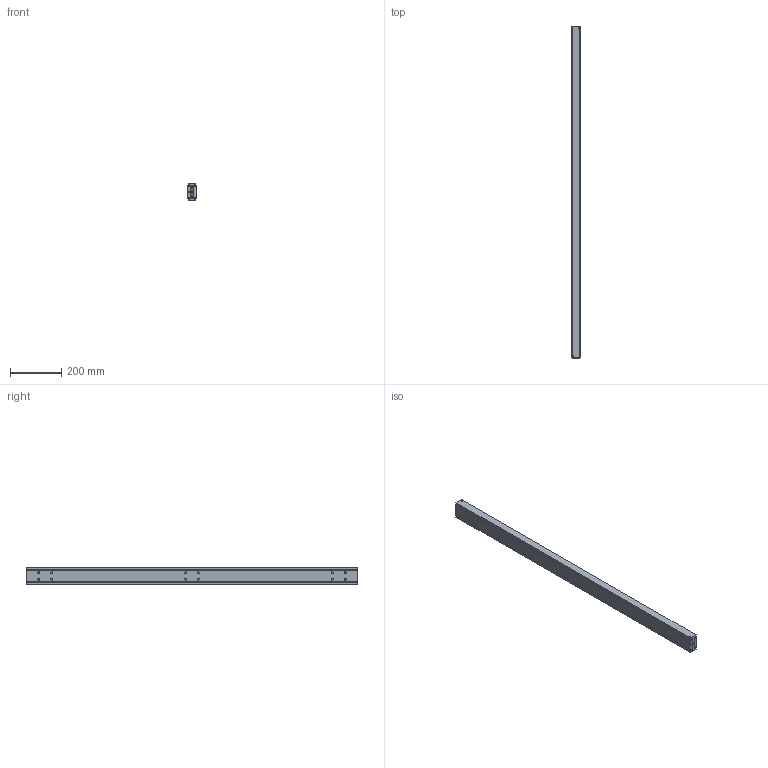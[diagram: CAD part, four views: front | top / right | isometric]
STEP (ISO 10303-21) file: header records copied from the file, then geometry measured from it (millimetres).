
FILE_DESCRIPTION(/* description */ (''),/* implementation_level */ '2;1');
FILE_NAME(/* name */ 'C:\Users\Miluxor\Desktop\Miluxor Schienen\Original Zeichnungen\Zeichnungen Schienen Komplett\MX-DTP70\MX-DTP70.130\MX-DTP70.130_eingefahren.stp',/* time_stamp */ '2019-09-17T10:34:23+02:00',/* author */ ('Miluxor'),/* organization */ (''),/* preprocessor_version */ 'ST-DEVELOPER v16.13',/* originating_system */ 'AutoCAD Mechanical',/* authorisation */ '');
FILE_SCHEMA (('AUTOMOTIVE_DESIGN { 1 0 10303 214 3 1 1 }'));
Length unit declared in the file: millimetre
Products named in the file (1): Product
Bounding box: 32 x 1300 x 70 mm (x, y, z)
Volume: 2224428.8 mm3; surface area: 803497.7 mm2
Topology: 87 solids, 89 shells, 288 faces, 914 edges, 652 vertices
Faces by surface type: plane 126, sphere 76, cylinder 44, bspline 20, torus 18, cone 4
Full cylindrical faces by diameter (mm): 6 x2, 8 x24, 13 x2
Entity records: 28255 total; most frequent: CARTESIAN_POINT 20661, DIRECTION 1522, ORIENTED_EDGE 1204, EDGE_CURVE 694, VERTEX_POINT 634, AXIS2_PLACEMENT_3D 613, EDGE_LOOP 534, CIRCLE 336
